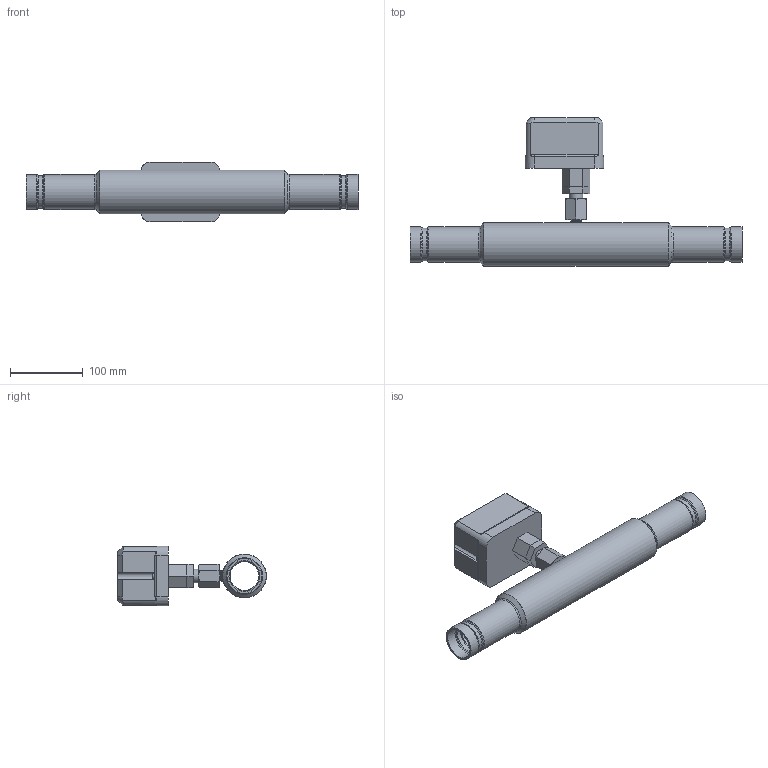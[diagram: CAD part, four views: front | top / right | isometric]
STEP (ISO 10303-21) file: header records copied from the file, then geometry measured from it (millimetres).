
FILE_DESCRIPTION(/* description */ (''),/* implementation_level */ '2;1');
FILE_NAME(/* name */ 'C:\Users\myoung\Box\ECS CAD Library\ECS Products\ILD-X Inline Detector\Export\ILD-1.5B10.stp',/* time_stamp */ '2020-05-05T15:15:33-05:00',/* author */ ('myoung'),/* organization */ (''),/* preprocessor_version */ 'ST-DEVELOPER v18',/* originating_system */ 'Autodesk Inventor 2020',/* authorisation */ '');
FILE_SCHEMA (('AUTOMOTIVE_DESIGN { 1 0 10303 214 3 1 1 }'));
Length unit declared in the file: inch
Products named in the file (1): ILD-1.5B10_Substitute_1
Bounding box: 457.2 x 204.85 x 82.55 mm (x, y, z)
Volume: 1080739.9 mm3; surface area: 195214.4 mm2
Topology: 1 solids, 1 shells, 167 faces, 455 edges, 300 vertices
Faces by surface type: plane 60, cone 37, cylinder 30, torus 22, bspline 18
Full cylindrical faces by diameter (mm): 1.524 x2, 7.112 x1, 7.62 x2, 12.359 x1, 19.05 x1, 39.522 x2, 42.723 x3, 45.06 x2, 48.26 x4, 60.325 x1
Entity records: 20923 total; most frequent: CARTESIAN_POINT 16577, ORIENTED_EDGE 910, DIRECTION 808, EDGE_CURVE 455, AXIS2_PLACEMENT_3D 324, VERTEX_POINT 300, EDGE_LOOP 181, CIRCLE 170
